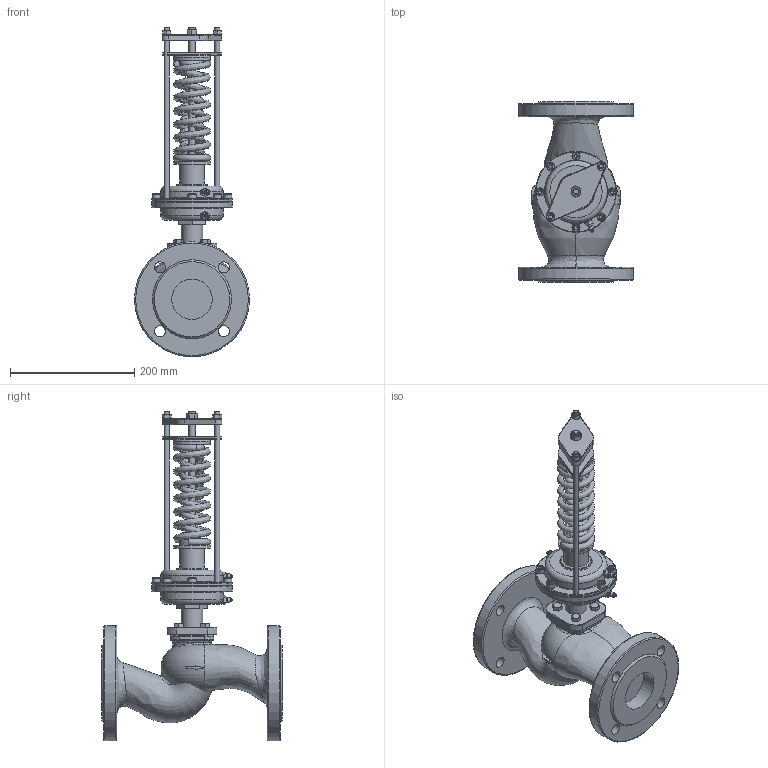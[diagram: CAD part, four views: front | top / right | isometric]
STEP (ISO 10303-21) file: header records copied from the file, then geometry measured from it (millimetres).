
FILE_DESCRIPTION(('STEP AP214'), '1');
FILE_NAME('Ðåãóëÿòîðû ïåðåïàäà äàâëåíèÿ ÂÐÄÄ', '', ('UNSPECIFIED'), ('UNSPECIFIED'), 'C3D Converter', 'C3D Toolkit', '');
FILE_SCHEMA(('AUTOMOTIVE_DESIGN { 1 0 10303 214 3 1 1}'));
Length unit declared in the file: millimetre
Products named in the file (8): -07
Assembly tree (17 placements, depth 3):
  -07
    -07
      (unnamed)  x4
    -07
      (unnamed)  x6
      (unnamed)  x2
      (unnamed)
      (unnamed)  x2
Bounding box: 185 x 290 x 530 mm (x, y, z)
Volume: 3860294.1 mm3; surface area: 454331.1 mm2
Topology: 29 solids, 29 shells, 610 faces, 1334 edges, 787 vertices
Faces by surface type: plane 261, cylinder 144, cone 88, torus 56, bspline 44, sphere 16, revolution 1
Full cylindrical faces by diameter (mm): 1.7 x2, 2.7 x4, 6 x16, 6.5 x4, 6.917 x2, 8 x12, 8.5 x4, 8.917 x1, 10 x10, 13 x6, 14 x4, 18 x8, 35 x1, 40 x3, 50 x1, 58 x2, 65 x2, 100 x2, 130 x2, 185 x2
Entity records: 36872 total; most frequent: CARTESIAN_POINT 26303, DIRECTION 1703, ORIENTED_EDGE 1490, EDGE_CURVE 745, AXIS2_PLACEMENT_3D 743, EDGE_LOOP 608, VERTEX_POINT 510, ADVANCED_FACE 404
